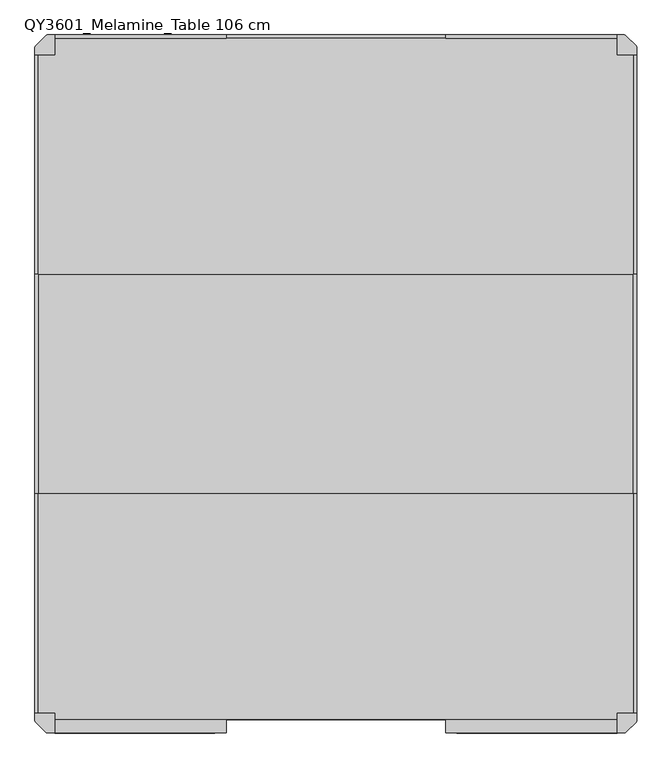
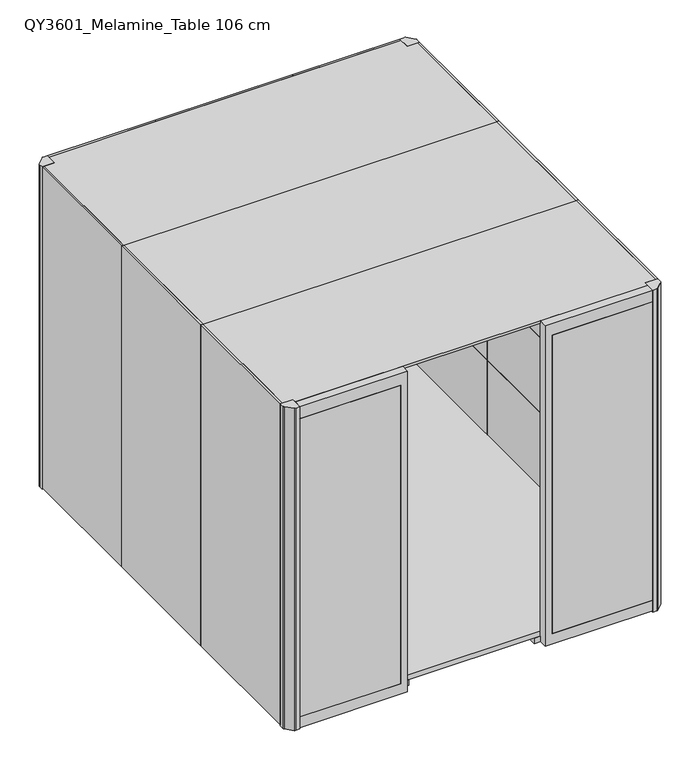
"""IFC4 building model written with IfcOpenShell, lengths in millimetres: furniture geometry, Qyos_600 : QY3601_Melamine_Table 106 cm."""

from ifc_helpers import new_model, si_unit, point, frame, frame_2d, origin, origin_with_axes, place, context, project, spatial, polyline, circle_curve, trimmed, segment, composite_curve, outline, extrude, source, transform, mapped, element, save
from ifc_brep_helpers import plane_surface, cylinder_surface, advanced_brep


def qy3601_melamine_table_106_cm_5577f11d(model_context):
    return source(origin(), model_context, "Body", "SolidModel", [
        advanced_brep(
        [(1048.8585356, 1272.0, 0.0), (1095.1414644, 1272.0, 0.0), (1072.0, 1272.0, 0.0), (1048.8585356, 1272.0, 7.0), (1095.1414644, 1272.0, 7.0), (1062.3615446, 1272.0, 7.0), (1081.6384554, 1272.0, 7.0), (1062.3615446, 1272.0, 17.0), (1081.6384554, 1272.0, 17.0), (1072.0, 1272.0, 17.0)],
        [
            (0, 1, circle_curve(frame((1072.0, 1272.0, 0.0), z_axis=(0.0, 0.0, -1.0), x_axis=(1.0, 0.0, 0.0)), 23.1414644)),
            (1, 2),
            (2, 0),
            (1, 0, circle_curve(frame((1072.0, 1272.0, 0.0), z_axis=(0.0, 0.0, -1.0), x_axis=(1.0, 0.0, 0.0)), 23.1414644)),
            (3, 4, circle_curve(frame((1072.0, 1272.0, 7.0), z_axis=(0.0, 0.0, -1.0), x_axis=(1.0, 0.0, 0.0)), 23.1414644)),
            (4, 1),
            (0, 3),
            (4, 3, circle_curve(frame((1072.0, 1272.0, 7.0), z_axis=(0.0, 0.0, -1.0), x_axis=(1.0, 0.0, 0.0)), 23.1414644)),
            (5, 6, circle_curve(frame((1072.0, 1272.0, 7.0), z_axis=(0.0, 0.0, -1.0), x_axis=(1.0, 0.0, 0.0)), 9.6384554)),
            (6, 4),
            (3, 5),
            (6, 5, circle_curve(frame((1072.0, 1272.0, 7.0), z_axis=(0.0, 0.0, -1.0), x_axis=(1.0, 0.0, 0.0)), 9.6384554)),
            (7, 8, circle_curve(frame((1072.0, 1272.0, 17.0), z_axis=(0.0, 0.0, -1.0), x_axis=(1.0, 0.0, 0.0)), 9.6384554)),
            (8, 6),
            (5, 7),
            (8, 7, circle_curve(frame((1072.0, 1272.0, 17.0), z_axis=(0.0, 0.0, -1.0), x_axis=(1.0, 0.0, 0.0)), 9.6384554)),
            (9, 8),
            (7, 9),
        ],
        [
            plane_surface(frame((1072.0, 1272.0, 0.0), z_axis=(0.0, 0.0, -1.0), x_axis=(1.0, 0.0, 0.0))),
            cylinder_surface(frame((1072.0, 1272.0, 1997.4144888), z_axis=(0.0, 0.0, 1.0), x_axis=(1.0, 0.0, 0.0)), 23.1414644),
            plane_surface(frame((1072.0, 1272.0, 7.0), z_axis=(0.0, 0.0, 1.0), x_axis=(1.0, 0.0, 0.0))),
            cylinder_surface(frame((1072.0, 1272.0, 1997.4144888), z_axis=(0.0, 0.0, 1.0), x_axis=(1.0, 0.0, 0.0)), 9.6384554),
            plane_surface(frame((1072.0, 1272.0, 17.0), z_axis=(0.0, 0.0, 1.0), x_axis=(1.0, 0.0, 0.0))),
        ],
        [
            (0, [[1, 2, 3]]),
            (0, [[4, -3, -2]]),
            (1, [[5, 6, -1, 7]]),
            (1, [[8, -7, -4, -6]]),
            (2, [[9, 10, -5, 11]]),
            (2, [[12, -11, -8, -10]]),
            (3, [[13, 14, -9, 15]]),
            (3, [[16, -15, -12, -14]]),
            (4, [[17, -13, 18]]),
            (4, [[-18, -16, -17]]),
        ],
    ),
        extrude(outline(composite_curve([segment(trimmed(circle_curve(frame_2d((1072.0, 1272.0)), 23.1414644), [point((1048.8585356, 1272.0))], [point((1095.1414644, 1272.0))], False, "CARTESIAN"), True, "CONTINUOUS"), segment(trimmed(circle_curve(frame_2d((1072.0, 1272.0)), 23.1414644), [point((1095.1414644, 1272.0))], [point((1048.8585356, 1272.0))], False, "CARTESIAN"), True, "CONTINUOUS")], self_intersect=False)), origin_with_axes(), (0.0, 0.0, 1.0), 7.0),
        extrude(outline(composite_curve([segment(polyline([(-1140.0, 1335.0), (-1220.0, 1335.0), (-1220.0, 1362.5536246)]), True, "CONTINUOUS"), segment(trimmed(circle_curve(frame_2d((-1208.0024364, 1362.3118252)), 12.0), [point((-1220.0, 1362.5536246))], [point((-1216.7960176, 1370.4771745))], False, "CARTESIAN"), True, "CONTINUOUS"), segment(trimmed(circle_curve(frame_2d((-638.4303831, 833.431197)), 789.2560985), [point((-1216.7960176, 1370.4771745))], [point((-1175.4763607, 1411.7968315))], False, "CARTESIAN"), True, "CONTINUOUS"), segment(trimmed(circle_curve(frame_2d((-1167.3110114, 1403.0032502)), 12.0), [point((-1175.4763607, 1411.7968315))], [point((-1167.5902872, 1415.0))], False, "CARTESIAN"), True, "CONTINUOUS"), segment(polyline([(-1167.5902872, 1415.0), (-1140.0, 1415.0), (-1140.0, 1335.0)]), True, "CONTINUOUS")], self_intersect=False)), origin_with_axes(), (0.0, 0.0, 1.0), 2202.1),
        extrude(outline(composite_curve([segment(polyline([(1140.0, 1335.0), (1140.0, 1415.0), (1167.5536246, 1415.0)]), True, "CONTINUOUS"), segment(trimmed(circle_curve(frame_2d((1167.3118252, 1403.0024364)), 12.0), [point((1167.5536246, 1415.0))], [point((1175.4771745, 1411.7960176))], False, "CARTESIAN"), True, "CONTINUOUS"), segment(trimmed(circle_curve(frame_2d((638.431197, 833.4303831)), 789.2560985), [point((1175.4771745, 1411.7960176))], [point((1216.7968315, 1370.4763607))], False, "CARTESIAN"), True, "CONTINUOUS"), segment(trimmed(circle_curve(frame_2d((1208.0032502, 1362.3110114)), 12.0), [point((1216.7968315, 1370.4763607))], [point((1220.0, 1362.5902872))], False, "CARTESIAN"), True, "CONTINUOUS"), segment(polyline([(1220.0, 1362.5902872), (1220.0, 1335.0), (1140.0, 1335.0)]), True, "CONTINUOUS")], self_intersect=False)), origin_with_axes(), (0.0, 0.0, 1.0), 2202.1),
        extrude(outline(composite_curve([segment(polyline([(1140.0, -1335.0), (1220.0, -1335.0), (1220.0, -1362.5536246)]), True, "CONTINUOUS"), segment(trimmed(circle_curve(frame_2d((1208.0024364, -1362.3118252)), 12.0), [point((1220.0, -1362.5536246))], [point((1216.7960176, -1370.4771745))], False, "CARTESIAN"), True, "CONTINUOUS"), segment(trimmed(circle_curve(frame_2d((638.4303831, -833.431197)), 789.2560985), [point((1216.7960176, -1370.4771745))], [point((1175.4763607, -1411.7968315))], False, "CARTESIAN"), True, "CONTINUOUS"), segment(trimmed(circle_curve(frame_2d((1167.3110114, -1403.0032502)), 12.0), [point((1175.4763607, -1411.7968315))], [point((1167.5902872, -1415.0))], False, "CARTESIAN"), True, "CONTINUOUS"), segment(polyline([(1167.5902872, -1415.0), (1140.0, -1415.0), (1140.0, -1335.0)]), True, "CONTINUOUS")], self_intersect=False)), origin_with_axes(), (0.0, 0.0, 1.0), 2202.1),
        extrude(outline(composite_curve([segment(polyline([(-1140.0, -1335.0), (-1140.0, -1415.0), (-1167.5536246, -1415.0)]), True, "CONTINUOUS"), segment(trimmed(circle_curve(frame_2d((-1167.3118252, -1403.0024364)), 12.0), [point((-1167.5536246, -1415.0))], [point((-1175.4771745, -1411.7960176))], False, "CARTESIAN"), True, "CONTINUOUS"), segment(trimmed(circle_curve(frame_2d((-638.431197, -833.4303831)), 789.2560985), [point((-1175.4771745, -1411.7960176))], [point((-1216.7968315, -1370.4763607))], False, "CARTESIAN"), True, "CONTINUOUS"), segment(trimmed(circle_curve(frame_2d((-1208.0032502, -1362.3110114)), 12.0), [point((-1216.7968315, -1370.4763607))], [point((-1220.0, -1362.5902872))], False, "CARTESIAN"), True, "CONTINUOUS"), segment(polyline([(-1220.0, -1362.5902872), (-1220.0, -1335.0), (-1140.0, -1335.0)]), True, "CONTINUOUS")], self_intersect=False)), origin_with_axes(), (0.0, 0.0, 1.0), 2202.1),
        extrude(outline(polyline([(1140.0, 1379.0), (1140.0, 1360.0), (445.0557256, 1360.0), (445.0557256, 1379.0), (1140.0, 1379.0)])), frame((0.0, 0.0, 1617.9823403), z_axis=(0.0, 0.0, 1.0), x_axis=(1.0, 0.0, 0.0)), (0.0, 0.0, 1.0), 504.1176597),
        extrude(outline(polyline([(-1140.0, 1379.0), (-445.0, 1379.0), (-445.0, 1360.0), (-1140.0, 1360.0), (-1140.0, 1379.0)])), frame((0.0, 0.0, 1617.9823403), z_axis=(0.0, 0.0, 1.0), x_axis=(1.0, 0.0, 0.0)), (0.0, 0.0, 1.0), 504.1176597),
        extrude(outline(polyline([(1140.0, 1379.0), (1140.0, 1360.0), (445.0557256, 1360.0), (445.0557256, 1379.0), (1140.0, 1379.0)])), frame((0.0, 0.0, 1106.0116287), z_axis=(0.0, 0.0, 1.0), x_axis=(1.0, 0.0, 0.0)), (0.0, 0.0, 1.0), 511.9707116),
        extrude(outline(polyline([(-1140.0, 1379.0), (-445.0, 1379.0), (-445.0, 1360.0), (-1140.0, 1360.0), (-1140.0, 1379.0)])), frame((0.0, 0.0, 1106.0116287), z_axis=(0.0, 0.0, 1.0), x_axis=(1.0, 0.0, 0.0)), (0.0, 0.0, 1.0), 511.9707116),
        extrude(outline(polyline([(1140.0, 1379.0), (1140.0, 1360.0), (445.0557256, 1360.0), (445.0557256, 1379.0), (1140.0, 1379.0)])), frame((0.0, 0.0, 593.9823403), z_axis=(0.0, 0.0, 1.0), x_axis=(1.0, 0.0, 0.0)), (0.0, 0.0, 1.0), 512.0292884),
        extrude(outline(polyline([(-1140.0, 1379.0), (-445.0, 1379.0), (-445.0, 1360.0), (-1140.0, 1360.0), (-1140.0, 1379.0)])), frame((0.0, 0.0, 593.9823403), z_axis=(0.0, 0.0, 1.0), x_axis=(1.0, 0.0, 0.0)), (0.0, 0.0, 1.0), 512.0292884),
        extrude(outline(polyline([(1140.0, 1379.0), (1140.0, 1360.0), (445.0557256, 1360.0), (445.0557256, 1379.0), (1140.0, 1379.0)])), frame((0.0, 0.0, 77.0), z_axis=(0.0, 0.0, 1.0), x_axis=(1.0, 0.0, 0.0)), (0.0, 0.0, 1.0), 516.9823403),
        extrude(outline(polyline([(-1140.0, 1379.0), (-445.0, 1379.0), (-445.0, 1360.0), (-1140.0, 1360.0), (-1140.0, 1379.0)])), frame((0.0, 0.0, 77.0), z_axis=(0.0, 0.0, 1.0), x_axis=(1.0, 0.0, 0.0)), (0.0, 0.0, 1.0), 516.9823403),
        extrude(outline(polyline([(-445.0, 1415.0), (-445.0, 1401.0), (-1140.0, 1401.0), (-1140.0, 1415.0), (-445.0, 1415.0)])), frame((0.0, 0.0, 10.0), z_axis=(0.0, 0.0, 1.0), x_axis=(1.0, 0.0, 0.0)), (0.0, 0.0, 1.0), 2192.1),
        extrude(outline(polyline([(1140.0, 1401.0), (445.0557256, 1401.0), (445.0557256, 1415.0), (1140.0, 1415.0), (1140.0, 1401.0)])), frame((0.0, 0.0, 10.0), z_axis=(0.0, 0.0, 1.0), x_axis=(1.0, 0.0, 0.0)), (0.0, 0.0, 1.0), 2192.1),
        extrude(outline(polyline([(-445.0, 1401.0), (445.0, 1401.0), (1140.0, 1401.0), (1140.0, 1335.0), (1206.0, 1335.0), (1206.0, 445.0), (-1206.0, 445.0), (-1206.0, 1335.0), (-1140.0, 1335.0), (-1140.0, 1401.0), (-445.0, 1401.0)])), frame((0.0, 0.0, 2186.1), z_axis=(0.0, 0.0, 1.0), x_axis=(1.0, 0.0, 0.0)), (0.0, 0.0, 1.0), 16.0),
        extrude(outline(polyline([(1206.0, -445.0), (1206.0, -1335.0), (1140.0, -1335.0), (1140.0, -1359.9956819), (-1140.0, -1359.9956819), (-1140.0, -1335.0), (-1206.0, -1335.0), (-1206.0, -445.0), (1206.0, -445.0)])), frame((0.0, 0.0, 2186.1), z_axis=(0.0, 0.0, 1.0), x_axis=(1.0, 0.0, 0.0)), (0.0, 0.0, 1.0), 16.0),
        extrude(outline(polyline([(1165.0, -1335.0), (1146.0, -1335.0), (1146.0, -445.0), (1165.0, -445.0), (1165.0, -1335.0)])), frame((0.0, 0.0, 77.0), z_axis=(0.0, 0.0, 1.0), x_axis=(1.0, 0.0, 0.0)), (0.0, 0.0, 1.0), 516.9823403),
        extrude(outline(polyline([(-1165.0, -1335.0), (-1165.0, -445.0), (-1146.0, -445.0), (-1146.0, -1335.0), (-1165.0, -1335.0)])), frame((0.0, 0.0, 77.0), z_axis=(0.0, 0.0, 1.0), x_axis=(1.0, 0.0, 0.0)), (0.0, 0.0, 1.0), 516.9823403),
        extrude(outline(polyline([(1165.0, -1335.0), (1146.0, -1335.0), (1146.0, -445.0), (1165.0, -445.0), (1165.0, -1335.0)])), frame((0.0, 0.0, 593.9823403), z_axis=(0.0, 0.0, 1.0), x_axis=(1.0, 0.0, 0.0)), (0.0, 0.0, 1.0), 512.0292884),
        extrude(outline(polyline([(-1165.0, -1335.0), (-1165.0, -445.0), (-1146.0, -445.0), (-1146.0, -1335.0), (-1165.0, -1335.0)])), frame((0.0, 0.0, 593.9823403), z_axis=(0.0, 0.0, 1.0), x_axis=(1.0, 0.0, 0.0)), (0.0, 0.0, 1.0), 512.0292884),
        extrude(outline(polyline([(1165.0, -1335.0), (1146.0, -1335.0), (1146.0, -445.0), (1165.0, -445.0), (1165.0, -1335.0)])), frame((0.0, 0.0, 1106.0116287), z_axis=(0.0, 0.0, 1.0), x_axis=(1.0, 0.0, 0.0)), (0.0, 0.0, 1.0), 511.9707116),
        extrude(outline(polyline([(-1165.0, -1335.0), (-1165.0, -445.0), (-1146.0, -445.0), (-1146.0, -1335.0), (-1165.0, -1335.0)])), frame((0.0, 0.0, 1106.0116287), z_axis=(0.0, 0.0, 1.0), x_axis=(1.0, 0.0, 0.0)), (0.0, 0.0, 1.0), 511.9707116),
        extrude(outline(polyline([(1165.0, -1335.0), (1146.0, -1335.0), (1146.0, -445.0), (1165.0, -445.0), (1165.0, -1335.0)])), frame((0.0, 0.0, 1617.9823403), z_axis=(0.0, 0.0, 1.0), x_axis=(1.0, 0.0, 0.0)), (0.0, 0.0, 1.0), 504.1176597),
        extrude(outline(polyline([(-1165.0, -1335.0), (-1165.0, -445.0), (-1146.0, -445.0), (-1146.0, -1335.0), (-1165.0, -1335.0)])), frame((0.0, 0.0, 1617.9823403), z_axis=(0.0, 0.0, 1.0), x_axis=(1.0, 0.0, 0.0)), (0.0, 0.0, 1.0), 504.1176597),
        extrude(outline(polyline([(1165.0, -445.0), (1146.0, -445.0), (1146.0, 445.0), (1165.0, 445.0), (1165.0, -445.0)])), frame((0.0, 0.0, 1617.9823403), z_axis=(0.0, 0.0, 1.0), x_axis=(1.0, 0.0, 0.0)), (0.0, 0.0, 1.0), 504.1176597),
        extrude(outline(polyline([(-1165.0, -445.0), (-1165.0, 445.0), (-1146.0, 445.0), (-1146.0, -445.0), (-1165.0, -445.0)])), frame((0.0, 0.0, 1617.9823403), z_axis=(0.0, 0.0, 1.0), x_axis=(1.0, 0.0, 0.0)), (0.0, 0.0, 1.0), 504.1176597),
        extrude(outline(polyline([(1165.0, -445.0), (1146.0, -445.0), (1146.0, 445.0), (1165.0, 445.0), (1165.0, -445.0)])), frame((0.0, 0.0, 1106.0116287), z_axis=(0.0, 0.0, 1.0), x_axis=(1.0, 0.0, 0.0)), (0.0, 0.0, 1.0), 511.9707116),
        extrude(outline(polyline([(-1165.0, -445.0), (-1165.0, 445.0), (-1146.0, 445.0), (-1146.0, -445.0), (-1165.0, -445.0)])), frame((0.0, 0.0, 1106.0116287), z_axis=(0.0, 0.0, 1.0), x_axis=(1.0, 0.0, 0.0)), (0.0, 0.0, 1.0), 511.9707116),
        extrude(outline(polyline([(1165.0, -445.0), (1146.0, -445.0), (1146.0, 445.0), (1165.0, 445.0), (1165.0, -445.0)])), frame((0.0, 0.0, 593.9823403), z_axis=(0.0, 0.0, 1.0), x_axis=(1.0, 0.0, 0.0)), (0.0, 0.0, 1.0), 512.0292884),
        extrude(outline(polyline([(-1165.0, -445.0), (-1165.0, 445.0), (-1146.0, 445.0), (-1146.0, -445.0), (-1165.0, -445.0)])), frame((0.0, 0.0, 593.9823403), z_axis=(0.0, 0.0, 1.0), x_axis=(1.0, 0.0, 0.0)), (0.0, 0.0, 1.0), 512.0292884),
        extrude(outline(polyline([(1165.0, 445.0), (1146.0, 445.0), (1146.0, 1335.0), (1165.0, 1335.0), (1165.0, 445.0)])), frame((0.0, 0.0, 77.0), z_axis=(0.0, 0.0, 1.0), x_axis=(1.0, 0.0, 0.0)), (0.0, 0.0, 1.0), 516.9823403),
        extrude(outline(polyline([(-1165.0, 445.0), (-1165.0, 1335.0), (-1146.0, 1335.0), (-1146.0, 445.0), (-1165.0, 445.0)])), frame((0.0, 0.0, 77.0), z_axis=(0.0, 0.0, 1.0), x_axis=(1.0, 0.0, 0.0)), (0.0, 0.0, 1.0), 516.9823403),
        extrude(outline(polyline([(-445.0, 1360.0), (-445.0, 1379.0), (445.0557256, 1379.0), (445.0557256, 1360.0), (-445.0, 1360.0)])), frame((0.0, 0.0, 77.0), z_axis=(0.0, 0.0, 1.0), x_axis=(1.0, 0.0, 0.0)), (0.0, 0.0, 1.0), 516.9823403),
        extrude(outline(polyline([(-1220.0, -1335.0), (-1220.0, -445.0), (-1206.0, -445.0), (-1206.0, -1335.0), (-1220.0, -1335.0)])), frame((0.0, 0.0, 10.0), z_axis=(0.0, 0.0, 1.0), x_axis=(1.0, 0.0, 0.0)), (0.0, 0.0, 1.0), 2192.1),
        extrude(outline(polyline([(1220.0, -1335.0), (1206.0, -1335.0), (1206.0, -445.0), (1220.0, -445.0), (1220.0, -1335.0)])), frame((0.0, 0.0, 10.0), z_axis=(0.0, 0.0, 1.0), x_axis=(1.0, 0.0, 0.0)), (0.0, 0.0, 1.0), 2192.1),
        extrude(outline(polyline([(-1220.0, -445.0), (-1220.0, 445.0), (-1206.0, 445.0), (-1206.0, -445.0), (-1220.0, -445.0)])), frame((0.0, 0.0, 10.0), z_axis=(0.0, 0.0, 1.0), x_axis=(1.0, 0.0, 0.0)), (0.0, 0.0, 1.0), 2192.1),
        extrude(outline(polyline([(1220.0, -445.0), (1206.0, -445.0), (1206.0, 445.0), (1220.0, 445.0), (1220.0, -445.0)])), frame((0.0, 0.0, 10.0), z_axis=(0.0, 0.0, 1.0), x_axis=(1.0, 0.0, 0.0)), (0.0, 0.0, 1.0), 2192.1),
        extrude(outline(polyline([(1206.0, 445.0), (1206.0, -445.0), (-1206.0, -445.0), (-1206.0, 445.0), (1206.0, 445.0)])), frame((0.0, 0.0, 2186.1), z_axis=(0.0, 0.0, 1.0), x_axis=(1.0, 0.0, 0.0)), (0.0, 0.0, 1.0), 16.0),
        extrude(outline(polyline([(-490.0089845, -1415.0), (-1140.0, -1415.0), (-1140.0, -1410.0), (-490.0089845, -1410.0), (-490.0089845, -1415.0)])), frame((0.0, 0.0, 82.0), z_axis=(0.0, 0.0, 1.0), x_axis=(1.0, 0.0, 0.0)), (0.0, 0.0, 1.0), 2040.1),
        extrude(outline(polyline([(1140.0, -1415.0), (490.0089845, -1415.0), (490.0089845, -1410.0), (1140.0, -1410.0), (1140.0, -1415.0)])), frame((0.0, 0.0, 82.0), z_axis=(0.0, 0.0, 1.0), x_axis=(1.0, 0.0, 0.0)), (0.0, 0.0, 1.0), 2040.1),
        extrude(outline(polyline([(-1052.0, -1359.9956819), (-1092.0, -1359.9956819), (-1092.0, 1360.0), (-1052.0, 1360.0), (-1052.0, -1359.9956819)])), frame((0.0, 0.0, 10.0), z_axis=(0.0, 0.0, 1.0), x_axis=(1.0, 0.0, 0.0)), (0.0, 0.0, 1.0), 37.0),
        extrude(outline(polyline([(-405.0, -1359.9956819), (-445.0, -1359.9956819), (-445.0, 1360.0), (-405.0, 1360.0), (-405.0, -1359.9956819)])), frame((0.0, 0.0, 10.0), z_axis=(0.0, 0.0, 1.0), x_axis=(1.0, 0.0, 0.0)), (0.0, 0.0, 1.0), 37.0),
        extrude(outline(polyline([(1092.0, -1359.9956819), (1052.0, -1359.9956819), (1052.0, 1360.0), (1092.0, 1360.0), (1092.0, -1359.9956819)])), frame((0.0, 0.0, 10.0), z_axis=(0.0, 0.0, 1.0), x_axis=(1.0, 0.0, 0.0)), (0.0, 0.0, 1.0), 37.0),
        extrude(outline(polyline([(405.0, 1360.0), (450.2080274, 1360.0), (450.2080274, -1359.9956819), (405.0, -1359.9956819), (405.0, 1360.0)])), frame((0.0, 0.0, 10.0), z_axis=(0.0, 0.0, 1.0), x_axis=(1.0, 0.0, 0.0)), (0.0, 0.0, 1.0), 37.0),
        extrude(outline(polyline([(2122.1, -490.0089845), (82.0, -490.0089845), (82.0, -1140.0), (10.0, -1140.0), (10.0, -445.0), (2202.1, -445.0), (2202.1, -1140.0), (2122.1, -1140.0), (2122.1, -490.0089845)])), frame((0.0, -1415.0, 0.0), z_axis=(0.0, 1.0, 0.0), x_axis=(0.0, 0.0, 1.0)), (0.0, 0.0, 1.0), 55.0043181),
        extrude(outline(polyline([(2122.1, 490.0089845), (2122.1, 1140.0), (2202.1, 1140.0), (2202.1, 445.0), (10.0, 445.0), (10.0, 1140.0), (82.0, 1140.0), (82.0, 490.0089845), (2122.1, 490.0089845)])), frame((0.0, -1415.0, 0.0), z_axis=(0.0, 1.0, 0.0), x_axis=(0.0, 0.0, 1.0)), (0.0, 0.0, 1.0), 55.0043181),
        extrude(outline(polyline([(-1146.0, 1335.0), (-1140.0, 1335.0), (-1140.0, 1360.0), (1140.0, 1360.0), (1140.0, 1335.0), (1146.0, 1335.0), (1146.0, -1335.0), (1140.0, -1335.0), (1140.0, -1359.9956819), (-1140.0, -1359.9956819), (-1140.0, -1335.0), (-1146.0, -1335.0), (-1146.0, 1335.0)])), frame((0.0, 0.0, 47.0), z_axis=(0.0, 0.0, 1.0), x_axis=(1.0, 0.0, 0.0)), (0.0, 0.0, 1.0), 35.0),
        extrude(outline(polyline([(1165.0, 445.0), (1146.0, 445.0), (1146.0, 1335.0024364), (1165.0, 1335.0024364), (1165.0, 445.0)])), frame((0.0, 0.0, 1617.9823403), z_axis=(0.0, 0.0, 1.0), x_axis=(1.0, 0.0, 0.0)), (0.0, 0.0, 1.0), 504.1176597),
        extrude(outline(polyline([(-1165.0, 445.0), (-1165.0, 1335.0), (-1146.0, 1335.0), (-1146.0, 445.0), (-1165.0, 445.0)])), frame((0.0, 0.0, 1617.9823403), z_axis=(0.0, 0.0, 1.0), x_axis=(1.0, 0.0, 0.0)), (0.0, 0.0, 1.0), 504.1176597),
        extrude(outline(polyline([(-445.0, 1360.0), (-445.0, 1379.0), (445.0557256, 1379.0), (445.0557256, 1360.0), (-445.0, 1360.0)])), frame((0.0, 0.0, 1617.9823403), z_axis=(0.0, 0.0, 1.0), x_axis=(1.0, 0.0, 0.0)), (0.0, 0.0, 1.0), 504.1176597),
        extrude(outline(polyline([(1165.0, 445.0), (1146.0, 445.0), (1146.0, 1335.0), (1165.0, 1335.0), (1165.0, 445.0)])), frame((0.0, 0.0, 1106.0116287), z_axis=(0.0, 0.0, 1.0), x_axis=(1.0, 0.0, 0.0)), (0.0, 0.0, 1.0), 511.9707116),
        extrude(outline(polyline([(-1165.0, 445.0), (-1165.0, 1335.0), (-1146.0, 1335.0), (-1146.0, 445.0), (-1165.0, 445.0)])), frame((0.0, 0.0, 1106.0116287), z_axis=(0.0, 0.0, 1.0), x_axis=(1.0, 0.0, 0.0)), (0.0, 0.0, 1.0), 511.9707116),
        extrude(outline(polyline([(-445.0, 1360.0), (-445.0, 1379.0), (445.0557256, 1379.0), (445.0557256, 1360.0), (-445.0, 1360.0)])), frame((0.0, 0.0, 1106.0116287), z_axis=(0.0, 0.0, 1.0), x_axis=(1.0, 0.0, 0.0)), (0.0, 0.0, 1.0), 511.9707116),
        extrude(outline(polyline([(1165.0, 445.0), (1146.0, 445.0), (1146.0, 1335.0), (1165.0, 1335.0), (1165.0, 445.0)])), frame((0.0, 0.0, 593.9823403), z_axis=(0.0, 0.0, 1.0), x_axis=(1.0, 0.0, 0.0)), (0.0, 0.0, 1.0), 512.0292884),
        extrude(outline(polyline([(-1165.0, 445.0), (-1165.0, 1335.0), (-1146.0, 1335.0), (-1146.0, 445.0), (-1165.0, 445.0)])), frame((0.0, 0.0, 593.9823403), z_axis=(0.0, 0.0, 1.0), x_axis=(1.0, 0.0, 0.0)), (0.0, 0.0, 1.0), 512.0292884),
        extrude(outline(polyline([(-445.0, 1360.0), (-445.0, 1379.0), (445.0557256, 1379.0), (445.0557256, 1360.0), (-445.0, 1360.0)])), frame((0.0, 0.0, 593.9823403), z_axis=(0.0, 0.0, 1.0), x_axis=(1.0, 0.0, 0.0)), (0.0, 0.0, 1.0), 512.0292884),
        extrude(outline(polyline([(1165.0, -445.0), (1146.0, -445.0), (1146.0, 445.0), (1165.0, 445.0), (1165.0, -445.0)])), frame((0.0, 0.0, 77.0), z_axis=(0.0, 0.0, 1.0), x_axis=(1.0, 0.0, 0.0)), (0.0, 0.0, 1.0), 516.9823403),
        extrude(outline(polyline([(-1165.0, -445.0), (-1165.0, 445.0), (-1146.0, 445.0), (-1146.0, -445.0), (-1165.0, -445.0)])), frame((0.0, 0.0, 77.0), z_axis=(0.0, 0.0, 1.0), x_axis=(1.0, 0.0, 0.0)), (0.0, 0.0, 1.0), 516.9823403),
        extrude(outline(polyline([(-1220.0, 445.0), (-1220.0, 1335.0), (-1206.0, 1335.0), (-1206.0, 445.0), (-1220.0, 445.0)])), frame((0.0, 0.0, 10.0), z_axis=(0.0, 0.0, 1.0), x_axis=(1.0, 0.0, 0.0)), (0.0, 0.0, 1.0), 2192.1),
        extrude(outline(polyline([(1220.0, 445.0), (1206.0, 445.0), (1206.0, 1335.0), (1220.0, 1335.0), (1220.0, 445.0)])), frame((0.0, 0.0, 10.0), z_axis=(0.0, 0.0, 1.0), x_axis=(1.0, 0.0, 0.0)), (0.0, 0.0, 1.0), 2192.1),
        extrude(outline(polyline([(445.0557256, 1415.0), (445.0557256, 1401.0), (-445.0, 1401.0), (-445.0, 1415.0), (445.0557256, 1415.0)])), frame((0.0, 0.0, 10.0), z_axis=(0.0, 0.0, 1.0), x_axis=(1.0, 0.0, 0.0)), (0.0, 0.0, 1.0), 2192.1),
    ])


if __name__ == "__main__":
    model = new_model("IFC4")
    model_context = context("Model", 3, world=origin())
    ifc_project = project(units=[si_unit("LENGTHUNIT", "METRE", prefix="MILLI")], contexts=[model_context])
    site = spatial("IfcSite", under=ifc_project)
    building = spatial("IfcBuilding", under=site)
    placement = place(None, origin())
    qy3601_melamine_table_106_cm_shape = qy3601_melamine_table_106_cm_5577f11d(model_context)
    element("IfcFurniture", 1, ObjectType="Qyos_600 : QY3601_Melamine_Table 106 cm", at=placement, inside=building, context=model_context, shape_type="MappedRepresentation", body=[
        mapped(qy3601_melamine_table_106_cm_shape, transform((0.0, 0.0, 0.0), x_axis=(1.0, 0.0, 0.0), y_axis=(0.0, 1.0, 0.0), z_axis=(0.0, 0.0, 1.0))),
    ])
    save(model, "model.ifc")
